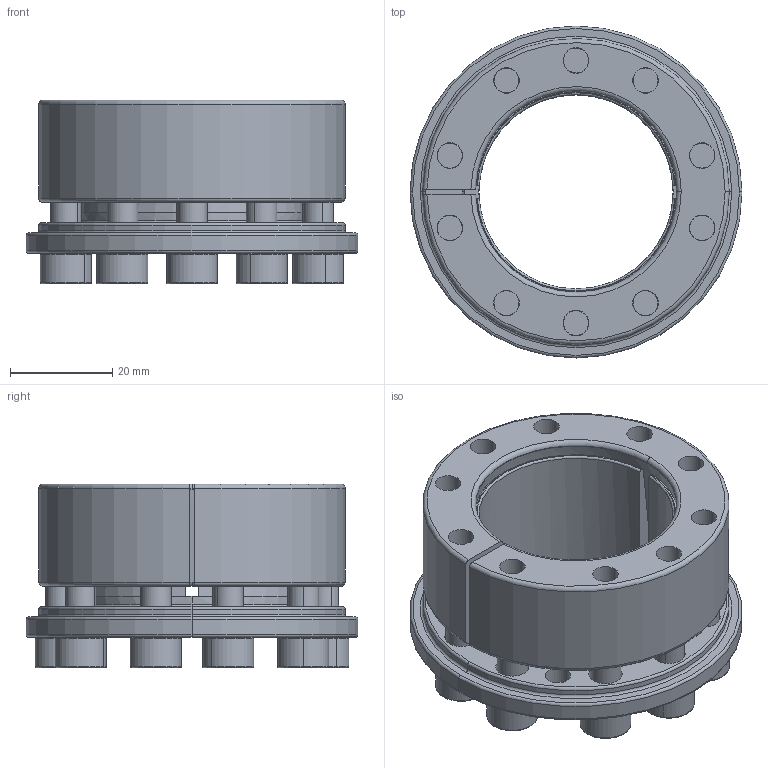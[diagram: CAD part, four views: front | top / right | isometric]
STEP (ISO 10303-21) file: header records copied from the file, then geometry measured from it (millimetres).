
FILE_DESCRIPTION (( 'STEP AP203' ), '1' );
FILE_NAME ('SAPL-A-38-60.STEP', '2013-07-22T10:48:29', ( 'MYCOM' ), ( '' ), 'SwSTEP 2.0', 'SolidWorks 2012', '' );
FILE_SCHEMA (( 'CONFIG_CONTROL_DESIGN' ));
Length unit declared in the file: millimetre
Products named in the file (1): SAPL-A-38-60
Bounding box: 65 x 65 x 36 mm (x, y, z)
Volume: 49834.3 mm3; surface area: 22629.2 mm2
Topology: 1 solids, 1 shells, 430 faces, 1024 edges, 605 vertices
Faces by surface type: plane 155, cylinder 118, torus 86, cone 71
Entity records: 12521 total; most frequent: DIRECTION 2371, CARTESIAN_POINT 2199, ORIENTED_EDGE 2008, EDGE_CURVE 1004, AXIS2_PLACEMENT_3D 964, VERTEX_POINT 605, CIRCLE 533, EDGE_LOOP 491
